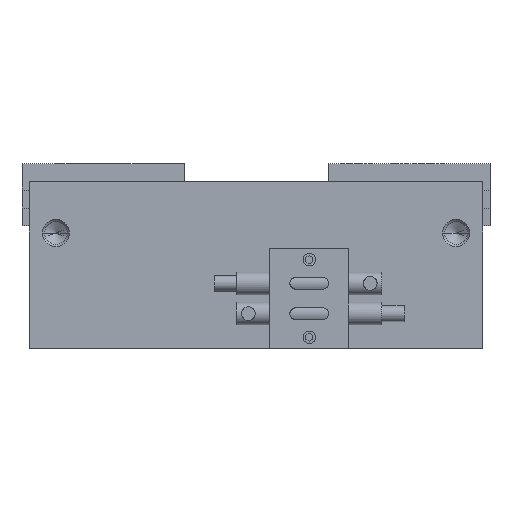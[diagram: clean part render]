
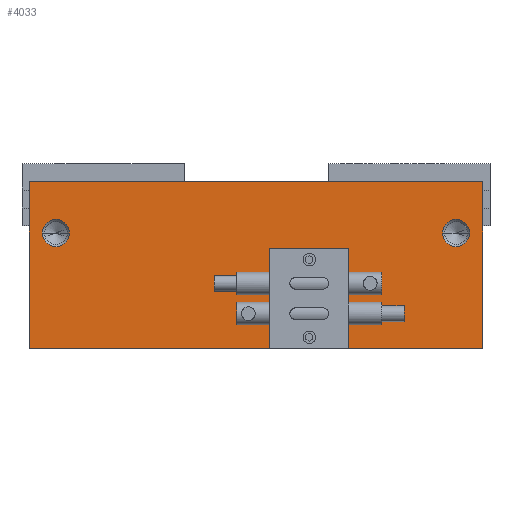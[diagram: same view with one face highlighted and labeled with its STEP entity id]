
A CAD part, top view. The second image highlights one B-rep face of the part: STEP entity #4033.
In plain terms, the highlighted planar face has unit normal (0, 0, 1).
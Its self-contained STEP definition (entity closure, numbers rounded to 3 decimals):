
#53 = FACE_BOUND ( 'NONE', #2795, .T. ) ;
#109 = DIRECTION ( 'NONE',  ( 0., 0., -1. ) ) ;
#125 = EDGE_CURVE ( 'NONE', #4331, #997, #1295, .T. ) ;
#242 = EDGE_CURVE ( 'NONE', #522, #3873, #872, .T. ) ;
#245 = ORIENTED_EDGE ( 'NONE', *, *, #871, .T. ) ;
#344 = CARTESIAN_POINT ( 'NONE',  ( -35.306, 5.652, 11.113 ) ) ;
#377 = DIRECTION ( 'NONE',  ( 0., 0., -1. ) ) ;
#506 = VECTOR ( 'NONE', #1276, 1000. ) ;
#522 = VERTEX_POINT ( 'NONE', #4606 ) ;
#655 = LINE ( 'NONE', #4424, #506 ) ;
#762 = VERTEX_POINT ( 'NONE', #1050 ) ;
#782 = ORIENTED_EDGE ( 'NONE', *, *, #125, .T. ) ;
#859 = VECTOR ( 'NONE', #988, 1000. ) ;
#862 = ORIENTED_EDGE ( 'NONE', *, *, #5391, .F. ) ;
#871 = EDGE_CURVE ( 'NONE', #997, #4331, #1704, .T. ) ;
#872 = CIRCLE ( 'NONE', #4217, 2.4 ) ;
#884 = CARTESIAN_POINT ( 'NONE',  ( 32.906, 5.651, 11.113 ) ) ;
#886 = EDGE_CURVE ( 'NONE', #2116, #5449, #655, .T. ) ;
#909 = CARTESIAN_POINT ( 'NONE',  ( 40.005, 14.669, 11.113 ) ) ;
#981 = CARTESIAN_POINT ( 'NONE',  ( 40.005, -14.669, 11.113 ) ) ;
#988 = DIRECTION ( 'NONE',  ( 0., -1., 0. ) ) ;
#997 = VERTEX_POINT ( 'NONE', #4389 ) ;
#1050 = CARTESIAN_POINT ( 'NONE',  ( -40.005, -14.669, 11.113 ) ) ;
#1263 = DIRECTION ( 'NONE',  ( 0., -1., 0. ) ) ;
#1276 = DIRECTION ( 'NONE',  ( -1., 0., 0. ) ) ;
#1295 = CIRCLE ( 'NONE', #2402, 2.4 ) ;
#1297 = CARTESIAN_POINT ( 'NONE',  ( 35.306, 5.651, 11.113 ) ) ;
#1422 = CARTESIAN_POINT ( 'NONE',  ( 40.005, 14.669, 11.113 ) ) ;
#1428 = CARTESIAN_POINT ( 'NONE',  ( 40.005, 14.669, 11.113 ) ) ;
#1464 = CARTESIAN_POINT ( 'NONE',  ( -40.005, 14.669, 11.113 ) ) ;
#1704 = CIRCLE ( 'NONE', #5007, 2.4 ) ;
#1748 = DIRECTION ( 'NONE',  ( 0., 1., 0. ) ) ;
#1878 = DIRECTION ( 'NONE',  ( -1., 0., 0. ) ) ;
#2059 = CIRCLE ( 'NONE', #2517, 2.4 ) ;
#2105 = VECTOR ( 'NONE', #1878, 1000. ) ;
#2116 = VERTEX_POINT ( 'NONE', #909 ) ;
#2256 = DIRECTION ( 'NONE',  ( 0., 0., -1. ) ) ;
#2402 = AXIS2_PLACEMENT_3D ( 'NONE', #344, #2256, #2693 ) ;
#2423 = ORIENTED_EDGE ( 'NONE', *, *, #4262, .T. ) ;
#2517 = AXIS2_PLACEMENT_3D ( 'NONE', #1297, #4435, #1748 ) ;
#2693 = DIRECTION ( 'NONE',  ( 0., 1., 0. ) ) ;
#2795 = EDGE_LOOP ( 'NONE', ( #4800, #5387 ) ) ;
#2808 = DIRECTION ( 'NONE',  ( 0., 0., -1. ) ) ;
#2936 = EDGE_LOOP ( 'NONE', ( #782, #245 ) ) ;
#3056 = CARTESIAN_POINT ( 'NONE',  ( -35.306, 5.652, 11.113 ) ) ;
#3220 = DIRECTION ( 'NONE',  ( 0., 1., 0. ) ) ;
#3263 = EDGE_CURVE ( 'NONE', #3873, #522, #2059, .T. ) ;
#3420 = DIRECTION ( 'NONE',  ( 0., 1., 0. ) ) ;
#3486 = FACE_OUTER_BOUND ( 'NONE', #4899, .T. ) ;
#3508 = DIRECTION ( 'NONE',  ( 0., 1., 0. ) ) ;
#3839 = VECTOR ( 'NONE', #1263, 1000. ) ;
#3873 = VERTEX_POINT ( 'NONE', #884 ) ;
#4000 = VERTEX_POINT ( 'NONE', #5001 ) ;
#4033 = ADVANCED_FACE ( 'NONE', ( #53, #4532, #3486 ), #5469, .F. ) ;
#4060 = ORIENTED_EDGE ( 'NONE', *, *, #4889, .F. ) ;
#4217 = AXIS2_PLACEMENT_3D ( 'NONE', #5519, #2808, #3420 ) ;
#4262 = EDGE_CURVE ( 'NONE', #5449, #762, #5026, .T. ) ;
#4331 = VERTEX_POINT ( 'NONE', #5363 ) ;
#4389 = CARTESIAN_POINT ( 'NONE',  ( -37.706, 5.652, 11.113 ) ) ;
#4424 = CARTESIAN_POINT ( 'NONE',  ( 40.005, 14.669, 11.113 ) ) ;
#4435 = DIRECTION ( 'NONE',  ( 0., 0., -1. ) ) ;
#4532 = FACE_BOUND ( 'NONE', #2936, .T. ) ;
#4604 = AXIS2_PLACEMENT_3D ( 'NONE', #1422, #109, #3220 ) ;
#4606 = CARTESIAN_POINT ( 'NONE',  ( 37.706, 5.651, 11.113 ) ) ;
#4800 = ORIENTED_EDGE ( 'NONE', *, *, #242, .T. ) ;
#4889 = EDGE_CURVE ( 'NONE', #4000, #762, #5708, .T. ) ;
#4899 = EDGE_LOOP ( 'NONE', ( #2423, #4060, #862, #5274 ) ) ;
#5001 = CARTESIAN_POINT ( 'NONE',  ( 40.005, -14.669, 11.113 ) ) ;
#5007 = AXIS2_PLACEMENT_3D ( 'NONE', #3056, #377, #3508 ) ;
#5026 = LINE ( 'NONE', #5319, #3839 ) ;
#5201 = LINE ( 'NONE', #1428, #859 ) ;
#5274 = ORIENTED_EDGE ( 'NONE', *, *, #886, .T. ) ;
#5319 = CARTESIAN_POINT ( 'NONE',  ( -40.005, 14.669, 11.113 ) ) ;
#5363 = CARTESIAN_POINT ( 'NONE',  ( -32.906, 5.652, 11.113 ) ) ;
#5387 = ORIENTED_EDGE ( 'NONE', *, *, #3263, .T. ) ;
#5391 = EDGE_CURVE ( 'NONE', #2116, #4000, #5201, .T. ) ;
#5449 = VERTEX_POINT ( 'NONE', #1464 ) ;
#5469 = PLANE ( 'NONE',  #4604 ) ;
#5519 = CARTESIAN_POINT ( 'NONE',  ( 35.306, 5.651, 11.113 ) ) ;
#5708 = LINE ( 'NONE', #981, #2105 ) ;
